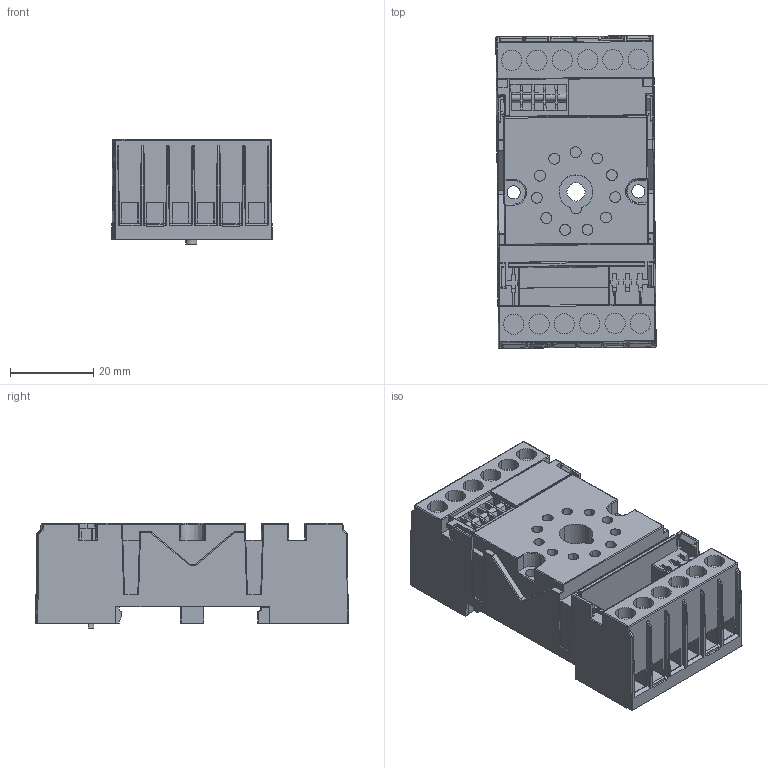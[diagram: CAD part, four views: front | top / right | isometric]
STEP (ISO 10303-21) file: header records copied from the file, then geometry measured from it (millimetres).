
FILE_DESCRIPTION (( 'STEP AP214' ), '1' );
FILE_NAME ('S3-M0.STEP', '2024-04-11T06:15:10', ( '' ), ( '' ), 'SwSTEP 2.0', 'SolidWorks 2022', '' );
FILE_SCHEMA (( 'AUTOMOTIVE_DESIGN' ));
Length unit declared in the file: millimetre
Products named in the file (1): S3-M0
Bounding box: 38.59 x 75.3 x 25.3 mm (x, y, z)
Volume: 51041.3 mm3; surface area: 20634.2 mm2
Topology: 1 solids, 28 shells, 1257 faces, 3313 edges, 2128 vertices
Faces by surface type: plane 863, cylinder 296, cone 46, sphere 42, bspline 5, torus 5
Entity records: 51969 total; most frequent: CARTESIAN_POINT 8093, ORIENTED_EDGE 6602, DIRECTION 5784, EDGE_CURVE 3301, LINE 2446, VECTOR 2446, VERTEX_POINT 2128, AXIS2_PLACEMENT_3D 1669
